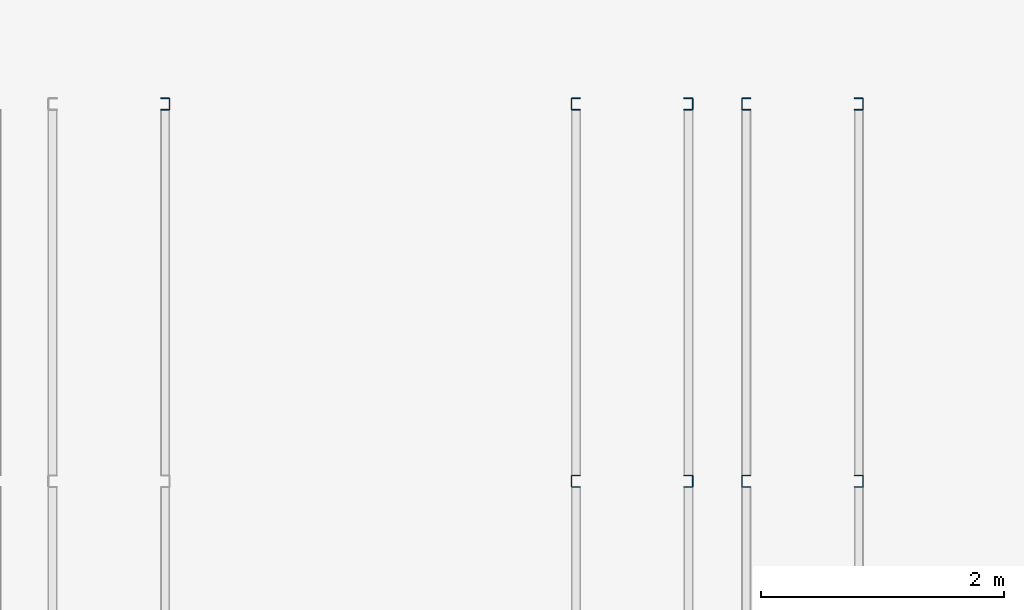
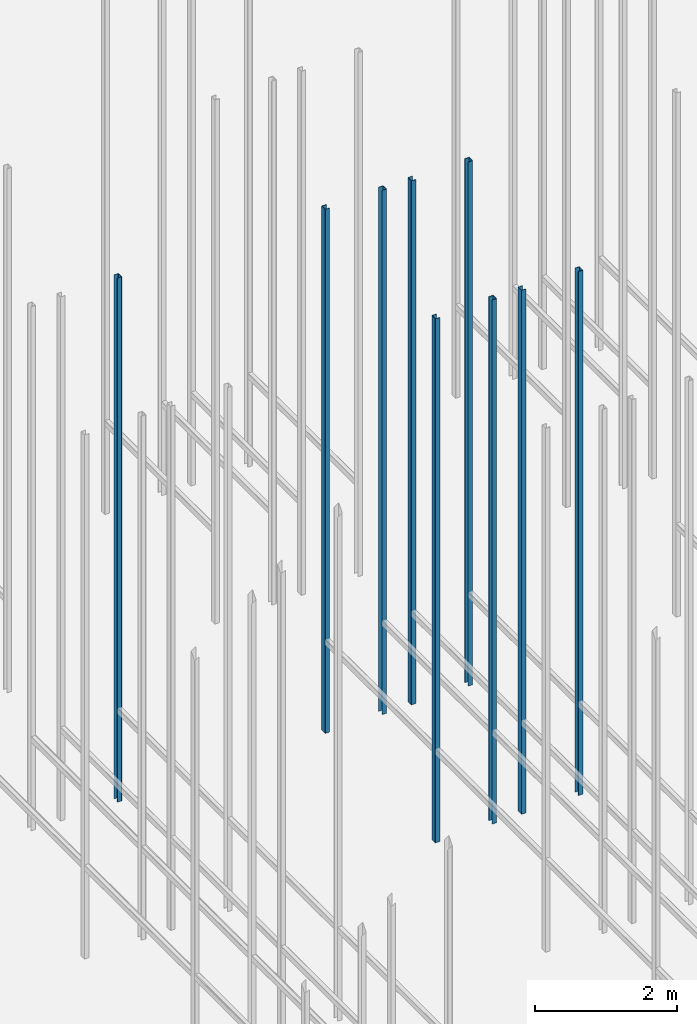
# One storey, part 23 of 302: 9 columns.
"""IFC2X3 building model written with IfcOpenShell, lengths in metres."""

from ifc_helpers import new_model, entity, si_unit, converted_unit, derived_unit, direction, frame, frame_2d, origin, place, context, subcontext, project, spatial, polyline, circle_curve, parameter, trimmed, segment, composite_curve, outline, extrude, source, transform, mapped, material, type_object, type_shapes, element, save


model = new_model("IFC2X3")

# Units and contexts
model_context = context("Model", 3, precision=1e-05, world=origin(), true_north=direction((6.12303176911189e-17, 1.0)))
body_context = subcontext(model_context, "Body", "Model", "MODEL_VIEW")
ifc_project = project(units=[si_unit("LENGTHUNIT", "METRE"), si_unit("AREAUNIT", "SQUARE_METRE"), si_unit("VOLUMEUNIT", "CUBIC_METRE"), converted_unit("PLANEANGLEUNIT", "DEGREE", entity("IfcRatioMeasure", 0.0174532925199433), si_unit("PLANEANGLEUNIT", "RADIAN"), dimensions=[0, 0, 0, 0, 0, 0, 0]), si_unit("MASSUNIT", "GRAM", prefix="KILO"), derived_unit("MASSDENSITYUNIT", [(si_unit("MASSUNIT", "GRAM", prefix="KILO"), 1), (si_unit("LENGTHUNIT", "METRE"), -3)]), derived_unit("MOMENTOFINERTIAUNIT", [(si_unit("LENGTHUNIT", "METRE"), 4)]), si_unit("TIMEUNIT", "SECOND"), si_unit("FREQUENCYUNIT", "HERTZ"), si_unit("THERMODYNAMICTEMPERATUREUNIT", "DEGREE_CELSIUS"), derived_unit("THERMALTRANSMITTANCEUNIT", [(si_unit("MASSUNIT", "GRAM", prefix="KILO"), 1), (si_unit("THERMODYNAMICTEMPERATUREUNIT", "KELVIN"), -1), (si_unit("TIMEUNIT", "SECOND"), -3)]), derived_unit("VOLUMETRICFLOWRATEUNIT", [(si_unit("LENGTHUNIT", "METRE"), 3), (si_unit("TIMEUNIT", "SECOND"), -1)]), si_unit("ELECTRICCURRENTUNIT", "AMPERE"), si_unit("ELECTRICVOLTAGEUNIT", "VOLT"), si_unit("POWERUNIT", "WATT"), si_unit("FORCEUNIT", "NEWTON", prefix="KILO"), si_unit("ILLUMINANCEUNIT", "LUX"), si_unit("LUMINOUSFLUXUNIT", "LUMEN"), si_unit("LUMINOUSINTENSITYUNIT", "CANDELA"), derived_unit("USERDEFINED", [(si_unit("MASSUNIT", "GRAM", prefix="KILO"), -1), (si_unit("LENGTHUNIT", "METRE"), -2), (si_unit("TIMEUNIT", "SECOND"), 3), (si_unit("LUMINOUSFLUXUNIT", "LUMEN"), 1)]), derived_unit("LINEARVELOCITYUNIT", [(si_unit("LENGTHUNIT", "METRE"), 1), (si_unit("TIMEUNIT", "SECOND"), -1)]), si_unit("PRESSUREUNIT", "PASCAL"), derived_unit("USERDEFINED", [(si_unit("LENGTHUNIT", "METRE"), -2), (si_unit("MASSUNIT", "GRAM", prefix="KILO"), 1), (si_unit("TIMEUNIT", "SECOND"), -2)]), derived_unit("LINEARFORCEUNIT", [(si_unit("MASSUNIT", "GRAM", prefix="KILO"), 1), (si_unit("LENGTHUNIT", "METRE"), 1), (si_unit("TIMEUNIT", "SECOND"), -2), (si_unit("LENGTHUNIT", "METRE"), -1)]), derived_unit("PLANARFORCEUNIT", [(si_unit("MASSUNIT", "GRAM", prefix="KILO"), 1), (si_unit("LENGTHUNIT", "METRE"), 1), (si_unit("TIMEUNIT", "SECOND"), -2), (si_unit("LENGTHUNIT", "METRE"), -2)])], contexts=[model_context])

# Site, building, storey
site_placement = place(None, origin())
site = spatial("IfcSite", under=ifc_project, at=site_placement, Name="Default", CompositionType="ELEMENT")
building_placement = place(site_placement, origin())
building = spatial("IfcBuilding", under=site, at=building_placement, CompositionType="ELEMENT")
storey_placement = place(building_placement, frame((0.0, 0.0, -1.3)))
storey = spatial("IfcBuildingStorey", under=building, at=storey_placement, Name="00_EG", CompositionType="ELEMENT", Elevation=-1.3)

# Columns
ifc_material = material(Name="Metall - Baustahl S235")
column_type_1 = type_object("IfcColumnType", Name="Leichter Stahl Schlossschrauben Stütze:C 100", PredefinedType="COLUMN", material=ifc_material)
shared_shape_1 = source(origin(), body_context, "Body", "SweptSolid", [
    extrude(outline(composite_curve([segment(polyline([(-0.0469749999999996, -0.0499999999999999), (0.0214500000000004, -0.0499999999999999)]), True, "CONTINUOUS"), segment(trimmed(circle_curve(frame_2d((0.0214500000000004, -0.0434249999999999), x_axis=(0.0, -1.0)), 0.00657500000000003), [parameter(0.0)], [parameter(89.9999999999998)], True, "PARAMETER"), True, "CONTINUOUS"), segment(polyline([(0.0280250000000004, -0.0434249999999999), (0.0280250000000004, 0.0434250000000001)]), True, "CONTINUOUS"), segment(trimmed(circle_curve(frame_2d((0.0214500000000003, 0.0434250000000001), x_axis=(1.0, 0.0)), 0.0065750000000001), [parameter(0.0)], [parameter(89.9999999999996)], True, "PARAMETER"), True, "CONTINUOUS"), segment(polyline([(0.0214500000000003, 0.0500000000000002), (-0.0469750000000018, 0.0500000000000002)]), True, "CONTINUOUS"), segment(polyline([(-0.0469750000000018, 0.0500000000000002), (-0.0469750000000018, 0.0450000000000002)]), True, "CONTINUOUS"), segment(polyline([(-0.0469750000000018, 0.0450000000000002), (0.0214500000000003, 0.0450000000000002)]), True, "CONTINUOUS"), segment(trimmed(circle_curve(frame_2d((0.0214500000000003, 0.0434249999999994), x_axis=(0.0, 1.0)), 0.00157500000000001), [parameter(269.999999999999)], [parameter(0.0)], True, "PARAMETER"), False, "CONTINUOUS"), segment(polyline([(0.0230250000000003, 0.0434249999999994), (0.0230250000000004, -0.0434249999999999)]), True, "CONTINUOUS"), segment(trimmed(circle_curve(frame_2d((0.0214500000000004, -0.0434249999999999), x_axis=(1.0, 0.0)), 0.00157500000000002), [parameter(270.0)], [parameter(0.0)], True, "PARAMETER"), False, "CONTINUOUS"), segment(polyline([(0.0214500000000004, -0.0449999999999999), (-0.0469749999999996, -0.0449999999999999)]), True, "CONTINUOUS"), segment(polyline([(-0.0469749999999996, -0.0449999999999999), (-0.0469749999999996, -0.0499999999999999)]), True, "CONTINUOUS")], self_intersect=False)), frame((0.0499999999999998, 0.0280250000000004, -0.0300000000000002), z_axis=(0.0, 0.0, 1.0), x_axis=(0.0, -1.0, 0.0)), (0.0, 0.0, 1.0), 9.0),
])
type_shapes(column_type_1, [shared_shape_1])
for number, where, z_axis, x_axis in (
    (1, (-196.490111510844, 42.648088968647, 1.3), (0.0, 0.0, 1.0), (0.0, -1.0, 0.0)),
    (2, (-196.490111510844, 45.748088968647, 1.3), (0.0, 0.0, 1.0), (0.0, -1.0, 0.0)),
    (3, (-195.090111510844, 42.648088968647, 1.3), (0.0, 0.0, 1.0), (0.0, -1.0, 0.0)),
    (4, (-195.090111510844, 45.748088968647, 1.3), (0.0, 0.0, 1.0), (0.0, -1.0, 0.0)),
):
    element("IfcColumn", number, at=place(storey_placement, frame(where, z_axis=z_axis, x_axis=x_axis)), inside=storey, type_object=column_type_1, material=ifc_material, Name="Leichter Stahl Schlossschrauben Stütze:C 100", ObjectType="Leichter Stahl Schlossschrauben Stütze:C 100", context=body_context, shape_type="MappedRepresentation", body=[
        mapped(shared_shape_1, transform((0.0, 0.0, 0.0), scale=1.0)),
    ])
column_type_2 = type_object("IfcColumnType", Name="Leichter Stahl Schlossschrauben Stütze:C 100", PredefinedType="COLUMN", material=ifc_material)
shared_shape_2 = source(origin(), body_context, "Body", "SweptSolid", [
    extrude(outline(composite_curve([segment(polyline([(-0.0214500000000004, -0.0499999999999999), (0.0469749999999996, -0.0499999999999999)]), True, "CONTINUOUS"), segment(polyline([(0.0469749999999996, -0.0499999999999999), (0.0469749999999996, -0.0449999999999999)]), True, "CONTINUOUS"), segment(polyline([(0.0469749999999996, -0.0449999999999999), (-0.0214500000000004, -0.045)]), True, "CONTINUOUS"), segment(trimmed(circle_curve(frame_2d((-0.0214500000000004, -0.043425), x_axis=(0.0, -1.0)), 0.00157500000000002), [parameter(270.0)], [parameter(0.0)], True, "PARAMETER"), False, "CONTINUOUS"), segment(polyline([(-0.0230250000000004, -0.0434249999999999), (-0.0230250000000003, 0.0434249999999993)]), True, "CONTINUOUS"), segment(trimmed(circle_curve(frame_2d((-0.0214500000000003, 0.0434249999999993), x_axis=(-1.0, 0.0)), 0.00157500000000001), [parameter(269.999999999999)], [parameter(0.0)], True, "PARAMETER"), False, "CONTINUOUS"), segment(polyline([(-0.0214500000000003, 0.0450000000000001), (0.0469750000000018, 0.0450000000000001)]), True, "CONTINUOUS"), segment(polyline([(0.0469750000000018, 0.0450000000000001), (0.0469750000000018, 0.0500000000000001)]), True, "CONTINUOUS"), segment(polyline([(0.0469750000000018, 0.0500000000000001), (-0.0214500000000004, 0.0500000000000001)]), True, "CONTINUOUS"), segment(trimmed(circle_curve(frame_2d((-0.0214500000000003, 0.043425), x_axis=(0.0, 1.0)), 0.0065750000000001), [parameter(0.0)], [parameter(89.9999999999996)], True, "PARAMETER"), True, "CONTINUOUS"), segment(polyline([(-0.0280250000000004, 0.043425), (-0.0280250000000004, -0.043425)]), True, "CONTINUOUS"), segment(trimmed(circle_curve(frame_2d((-0.0214500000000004, -0.0434249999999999), x_axis=(-1.0, 0.0)), 0.00657500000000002), [parameter(0.0)], [parameter(89.9999999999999)], True, "PARAMETER"), True, "CONTINUOUS")], self_intersect=False)), frame((0.0499999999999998, -0.0280250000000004, -0.0300000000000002), z_axis=(0.0, 0.0, 1.0), x_axis=(0.0, -1.0, 0.0)), (0.0, 0.0, 1.0), 9.0),
])
type_shapes(column_type_2, [shared_shape_2])
for number, where, z_axis, x_axis in (
    (5, (-195.490111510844, 42.648088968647, 1.3), (0.0, 0.0, 1.0), (0.0, -1.0, 0.0)),
    (6, (-195.490111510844, 45.748088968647, 1.3), (0.0, 0.0, 1.0), (0.0, -1.0, 0.0)),
    (7, (-199.790111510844, 45.748088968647, 1.3), (0.0, 0.0, 1.0), (0.0, -1.0, 0.0)),
    (8, (-194.090111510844, 42.648088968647, 1.3), (0.0, 0.0, 1.0), (0.0, -1.0, 0.0)),
    (9, (-194.090111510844, 45.748088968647, 1.3), (0.0, 0.0, 1.0), (0.0, -1.0, 0.0)),
):
    element("IfcColumn", number, at=place(storey_placement, frame(where, z_axis=z_axis, x_axis=x_axis)), inside=storey, type_object=column_type_2, material=ifc_material, Name="Leichter Stahl Schlossschrauben Stütze:C 100", ObjectType="Leichter Stahl Schlossschrauben Stütze:C 100", context=body_context, shape_type="MappedRepresentation", body=[
        mapped(shared_shape_2, transform((0.0, 0.0, 0.0), scale=1.0)),
    ])

save(model, "model.ifc")
